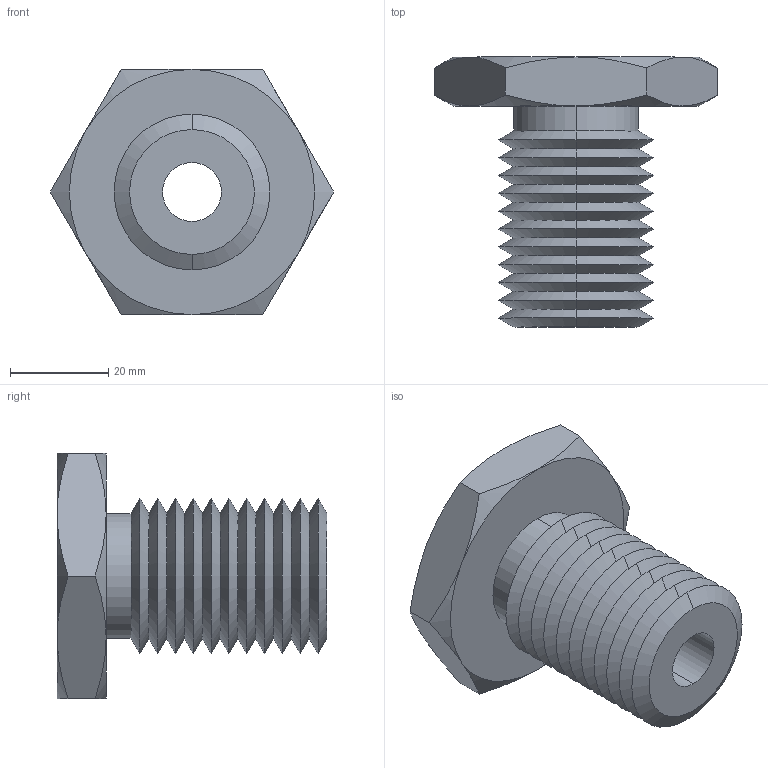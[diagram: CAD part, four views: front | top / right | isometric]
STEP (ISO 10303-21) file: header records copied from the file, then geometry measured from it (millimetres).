
FILE_DESCRIPTION (( 'STEP AP203' ), '1' );
FILE_NAME ('63302.W5125_M12x1,7.step', '2013-12-08T11:57:06', ( 'User' ), ( '' ), 'SwSTEP 2.0', 'SolidWorks 2009', '' );
FILE_SCHEMA (( 'CONFIG_CONTROL_DESIGN' ));
Length unit declared in the file: millimetre
Products named in the file (1): 63302.W5125_M12x1,7
Bounding box: 57.73 x 55 x 50 mm (x, y, z)
Volume: 43447.5 mm3; surface area: 15255.2 mm2
Topology: 1 solids, 1 shells, 71 faces, 146 edges, 78 vertices
Faces by surface type: cone 58, plane 9, cylinder 4
Entity records: 2039 total; most frequent: CARTESIAN_POINT 480, DIRECTION 332, ORIENTED_EDGE 292, EDGE_CURVE 146, AXIS2_PLACEMENT_3D 138, VERTEX_POINT 78, EDGE_LOOP 74, ADVANCED_FACE 71
